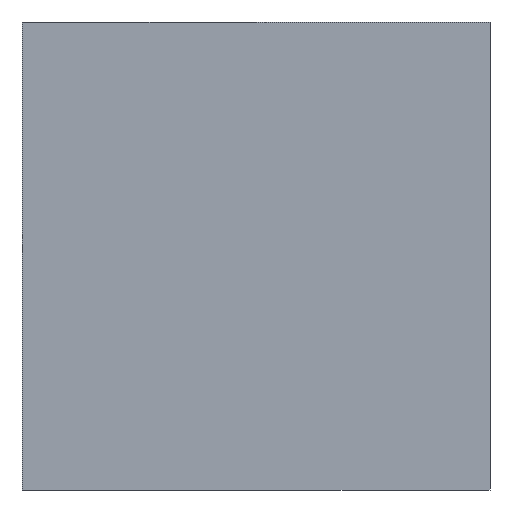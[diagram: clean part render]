
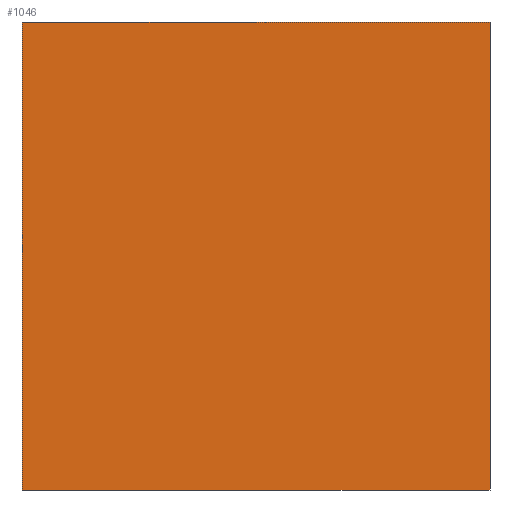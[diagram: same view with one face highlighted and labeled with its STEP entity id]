
A CAD part, front view. The second image highlights one B-rep face of the part: STEP entity #1046.
In plain terms, the highlighted planar face has unit normal (0, -1, 0).
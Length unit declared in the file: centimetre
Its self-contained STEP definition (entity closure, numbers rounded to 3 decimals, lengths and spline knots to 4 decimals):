
#74 = CARTESIAN_POINT ( 'NONE',  ( 0., 0., 0. ) ) ;
#89 = DIRECTION ( 'NONE',  ( 1., 0., 0. ) ) ;
#92 = ORIENTED_EDGE ( 'NONE', *, *, #192, .T. ) ;
#147 = VECTOR ( 'NONE', #1050, 100. ) ;
#192 = EDGE_CURVE ( 'NONE', #259, #448, #671, .T. ) ;
#207 = LINE ( 'NONE', #1094, #1106 ) ;
#254 = CARTESIAN_POINT ( 'NONE',  ( 1000., 0., 1000. ) ) ;
#259 = VERTEX_POINT ( 'NONE', #397 ) ;
#320 = EDGE_CURVE ( 'NONE', #1115, #259, #705, .T. ) ;
#324 = VECTOR ( 'NONE', #410, 100. ) ;
#331 = CARTESIAN_POINT ( 'NONE',  ( 0., 0., 1000. ) ) ;
#385 = LINE ( 'NONE', #973, #1133 ) ;
#397 = CARTESIAN_POINT ( 'NONE',  ( 0., 0., 0. ) ) ;
#410 = DIRECTION ( 'NONE',  ( 0., 0., -1. ) ) ;
#448 = VERTEX_POINT ( 'NONE', #741 ) ;
#464 = EDGE_LOOP ( 'NONE', ( #92, #1048, #1227, #795 ) ) ;
#540 = EDGE_CURVE ( 'NONE', #742, #448, #207, .T. ) ;
#541 = PLANE ( 'NONE',  #957 ) ;
#621 = FACE_OUTER_BOUND ( 'NONE', #464, .T. ) ;
#629 = CARTESIAN_POINT ( 'NONE',  ( 0., 0., 1000. ) ) ;
#671 = LINE ( 'NONE', #74, #147 ) ;
#705 = LINE ( 'NONE', #1192, #324 ) ;
#741 = CARTESIAN_POINT ( 'NONE',  ( 1000., 0., 0. ) ) ;
#742 = VERTEX_POINT ( 'NONE', #254 ) ;
#795 = ORIENTED_EDGE ( 'NONE', *, *, #320, .T. ) ;
#829 = DIRECTION ( 'NONE',  ( 0., 1., 0. ) ) ;
#908 = EDGE_CURVE ( 'NONE', #1115, #742, #385, .T. ) ;
#957 = AXIS2_PLACEMENT_3D ( 'NONE', #629, #829, #1016 ) ;
#973 = CARTESIAN_POINT ( 'NONE',  ( 0., 0., 1000. ) ) ;
#991 = DIRECTION ( 'NONE',  ( 0., 0., -1. ) ) ;
#1016 = DIRECTION ( 'NONE',  ( 0., 0., 1. ) ) ;
#1046 = ADVANCED_FACE ( 'NONE', ( #621 ), #541, .F. ) ;
#1048 = ORIENTED_EDGE ( 'NONE', *, *, #540, .F. ) ;
#1050 = DIRECTION ( 'NONE',  ( 1., 0., 0. ) ) ;
#1094 = CARTESIAN_POINT ( 'NONE',  ( 1000., 0., 1000. ) ) ;
#1106 = VECTOR ( 'NONE', #991, 100. ) ;
#1115 = VERTEX_POINT ( 'NONE', #331 ) ;
#1133 = VECTOR ( 'NONE', #89, 100. ) ;
#1192 = CARTESIAN_POINT ( 'NONE',  ( 0., 0., 1000. ) ) ;
#1227 = ORIENTED_EDGE ( 'NONE', *, *, #908, .F. ) ;
